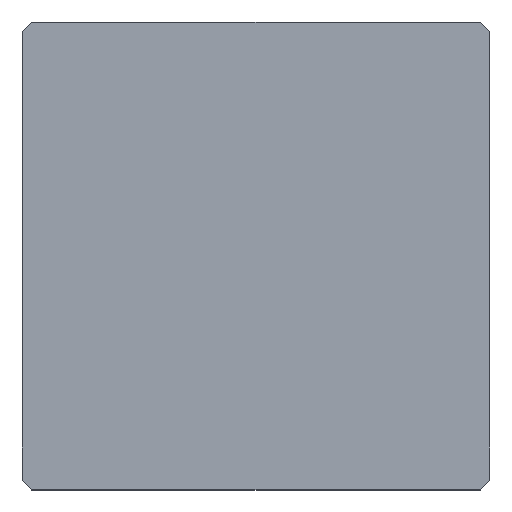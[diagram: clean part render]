
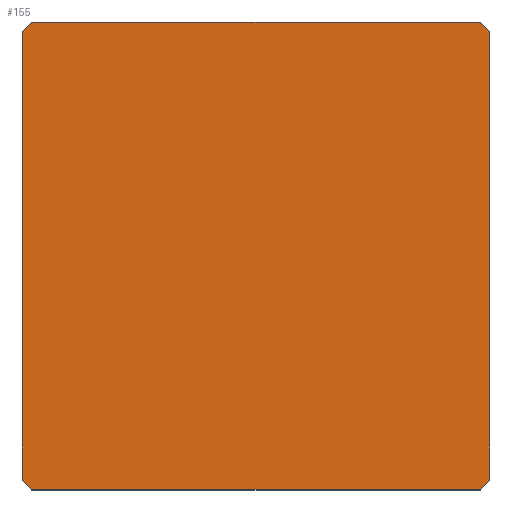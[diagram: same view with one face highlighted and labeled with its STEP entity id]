
A CAD part, top view. The second image highlights one B-rep face of the part: STEP entity #155.
In plain terms, the highlighted planar face has unit normal (0, 0, 1).
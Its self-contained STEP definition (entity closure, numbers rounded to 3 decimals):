
#39 = EDGE_CURVE('',#40,#42,#44,.T.);
#40 = VERTEX_POINT('',#41);
#41 = CARTESIAN_POINT('',(-10.,-9.6,14.75));
#42 = VERTEX_POINT('',#43);
#43 = CARTESIAN_POINT('',(-10.,9.6,14.75));
#44 = SURFACE_CURVE('',#45,(#49,#61),.PCURVE_S1.);
#45 = LINE('',#46,#47);
#46 = CARTESIAN_POINT('',(-10.,-10.,14.75));
#47 = VECTOR('',#48,1.);
#48 = DIRECTION('',(-0.,1.,0.));
#49 = PCURVE('',#50,#55);
#50 = PLANE('',#51);
#51 = AXIS2_PLACEMENT_3D('',#52,#53,#54);
#52 = CARTESIAN_POINT('',(-10.,-10.,0.));
#53 = DIRECTION('',(1.,0.,-0.));
#54 = DIRECTION('',(0.,0.,1.));
#55 = DEFINITIONAL_REPRESENTATION('',(#56),#60);
#56 = LINE('',#57,#58);
#57 = CARTESIAN_POINT('',(14.75,0.));
#58 = VECTOR('',#59,1.);
#59 = DIRECTION('',(0.,-1.));
#60 = ( GEOMETRIC_REPRESENTATION_CONTEXT(2) 
PARAMETRIC_REPRESENTATION_CONTEXT() REPRESENTATION_CONTEXT('2D SPACE',''
  ) );
#61 = PCURVE('',#62,#67);
#62 = PLANE('',#63);
#63 = AXIS2_PLACEMENT_3D('',#64,#65,#66);
#64 = CARTESIAN_POINT('',(-10.,-10.,14.75));
#65 = DIRECTION('',(0.,0.,1.));
#66 = DIRECTION('',(1.,0.,-0.));
#67 = DEFINITIONAL_REPRESENTATION('',(#68),#72);
#68 = LINE('',#69,#70);
#69 = CARTESIAN_POINT('',(0.,0.));
#70 = VECTOR('',#71,1.);
#71 = DIRECTION('',(0.,1.));
#72 = ( GEOMETRIC_REPRESENTATION_CONTEXT(2) 
PARAMETRIC_REPRESENTATION_CONTEXT() REPRESENTATION_CONTEXT('2D SPACE',''
  ) );
#90 = PLANE('',#91);
#91 = AXIS2_PLACEMENT_3D('',#92,#93,#94);
#92 = CARTESIAN_POINT('',(-9.8,-9.8,0.));
#93 = DIRECTION('',(-0.707,-0.707,0.));
#94 = DIRECTION('',(-0.,-0.,-1.));
#144 = PLANE('',#145);
#145 = AXIS2_PLACEMENT_3D('',#146,#147,#148);
#146 = CARTESIAN_POINT('',(-9.8,9.8,0.));
#147 = DIRECTION('',(0.707,-0.707,0.));
#148 = DIRECTION('',(-0.,-0.,-1.));
#155 = ADVANCED_FACE('',(#156),#62,.T.);
#156 = FACE_BOUND('',#157,.T.);
#157 = EDGE_LOOP('',(#158,#159,#182,#210,#238,#266,#294,#322));
#158 = ORIENTED_EDGE('',*,*,#39,.F.);
#159 = ORIENTED_EDGE('',*,*,#160,.T.);
#160 = EDGE_CURVE('',#40,#161,#163,.T.);
#161 = VERTEX_POINT('',#162);
#162 = CARTESIAN_POINT('',(-9.6,-10.,14.75));
#163 = SURFACE_CURVE('',#164,(#168,#175),.PCURVE_S1.);
#164 = LINE('',#165,#166);
#165 = CARTESIAN_POINT('',(-9.8,-9.8,14.75));
#166 = VECTOR('',#167,1.);
#167 = DIRECTION('',(0.707,-0.707,0.));
#168 = PCURVE('',#62,#169);
#169 = DEFINITIONAL_REPRESENTATION('',(#170),#174);
#170 = LINE('',#171,#172);
#171 = CARTESIAN_POINT('',(0.2,0.2));
#172 = VECTOR('',#173,1.);
#173 = DIRECTION('',(0.707,-0.707));
#174 = ( GEOMETRIC_REPRESENTATION_CONTEXT(2) 
PARAMETRIC_REPRESENTATION_CONTEXT() REPRESENTATION_CONTEXT('2D SPACE',''
  ) );
#175 = PCURVE('',#90,#176);
#176 = DEFINITIONAL_REPRESENTATION('',(#177),#181);
#177 = LINE('',#178,#179);
#178 = CARTESIAN_POINT('',(-14.75,0.));
#179 = VECTOR('',#180,1.);
#180 = DIRECTION('',(-0.,1.));
#181 = ( GEOMETRIC_REPRESENTATION_CONTEXT(2) 
PARAMETRIC_REPRESENTATION_CONTEXT() REPRESENTATION_CONTEXT('2D SPACE',''
  ) );
#182 = ORIENTED_EDGE('',*,*,#183,.T.);
#183 = EDGE_CURVE('',#161,#184,#186,.T.);
#184 = VERTEX_POINT('',#185);
#185 = CARTESIAN_POINT('',(9.6,-10.,14.75));
#186 = SURFACE_CURVE('',#187,(#191,#198),.PCURVE_S1.);
#187 = LINE('',#188,#189);
#188 = CARTESIAN_POINT('',(-10.,-10.,14.75));
#189 = VECTOR('',#190,1.);
#190 = DIRECTION('',(1.,0.,-0.));
#191 = PCURVE('',#62,#192);
#192 = DEFINITIONAL_REPRESENTATION('',(#193),#197);
#193 = LINE('',#194,#195);
#194 = CARTESIAN_POINT('',(0.,0.));
#195 = VECTOR('',#196,1.);
#196 = DIRECTION('',(1.,0.));
#197 = ( GEOMETRIC_REPRESENTATION_CONTEXT(2) 
PARAMETRIC_REPRESENTATION_CONTEXT() REPRESENTATION_CONTEXT('2D SPACE',''
  ) );
#198 = PCURVE('',#199,#204);
#199 = PLANE('',#200);
#200 = AXIS2_PLACEMENT_3D('',#201,#202,#203);
#201 = CARTESIAN_POINT('',(-10.,-10.,0.));
#202 = DIRECTION('',(-0.,1.,0.));
#203 = DIRECTION('',(0.,0.,1.));
#204 = DEFINITIONAL_REPRESENTATION('',(#205),#209);
#205 = LINE('',#206,#207);
#206 = CARTESIAN_POINT('',(14.75,0.));
#207 = VECTOR('',#208,1.);
#208 = DIRECTION('',(0.,1.));
#209 = ( GEOMETRIC_REPRESENTATION_CONTEXT(2) 
PARAMETRIC_REPRESENTATION_CONTEXT() REPRESENTATION_CONTEXT('2D SPACE',''
  ) );
#210 = ORIENTED_EDGE('',*,*,#211,.F.);
#211 = EDGE_CURVE('',#212,#184,#214,.T.);
#212 = VERTEX_POINT('',#213);
#213 = CARTESIAN_POINT('',(10.,-9.6,14.75));
#214 = SURFACE_CURVE('',#215,(#219,#226),.PCURVE_S1.);
#215 = LINE('',#216,#217);
#216 = CARTESIAN_POINT('',(4.8,-14.8,14.75));
#217 = VECTOR('',#218,1.);
#218 = DIRECTION('',(-0.707,-0.707,0.));
#219 = PCURVE('',#62,#220);
#220 = DEFINITIONAL_REPRESENTATION('',(#221),#225);
#221 = LINE('',#222,#223);
#222 = CARTESIAN_POINT('',(14.8,-4.8));
#223 = VECTOR('',#224,1.);
#224 = DIRECTION('',(-0.707,-0.707));
#225 = ( GEOMETRIC_REPRESENTATION_CONTEXT(2) 
PARAMETRIC_REPRESENTATION_CONTEXT() REPRESENTATION_CONTEXT('2D SPACE',''
  ) );
#226 = PCURVE('',#227,#232);
#227 = PLANE('',#228);
#228 = AXIS2_PLACEMENT_3D('',#229,#230,#231);
#229 = CARTESIAN_POINT('',(9.8,-9.8,0.));
#230 = DIRECTION('',(-0.707,0.707,0.));
#231 = DIRECTION('',(-0.,-0.,-1.));
#232 = DEFINITIONAL_REPRESENTATION('',(#233),#237);
#233 = LINE('',#234,#235);
#234 = CARTESIAN_POINT('',(-14.75,7.071));
#235 = VECTOR('',#236,1.);
#236 = DIRECTION('',(-0.,1.));
#237 = ( GEOMETRIC_REPRESENTATION_CONTEXT(2) 
PARAMETRIC_REPRESENTATION_CONTEXT() REPRESENTATION_CONTEXT('2D SPACE',''
  ) );
#238 = ORIENTED_EDGE('',*,*,#239,.T.);
#239 = EDGE_CURVE('',#212,#240,#242,.T.);
#240 = VERTEX_POINT('',#241);
#241 = CARTESIAN_POINT('',(10.,9.6,14.75));
#242 = SURFACE_CURVE('',#243,(#247,#254),.PCURVE_S1.);
#243 = LINE('',#244,#245);
#244 = CARTESIAN_POINT('',(10.,-10.,14.75));
#245 = VECTOR('',#246,1.);
#246 = DIRECTION('',(-0.,1.,0.));
#247 = PCURVE('',#62,#248);
#248 = DEFINITIONAL_REPRESENTATION('',(#249),#253);
#249 = LINE('',#250,#251);
#250 = CARTESIAN_POINT('',(20.,0.));
#251 = VECTOR('',#252,1.);
#252 = DIRECTION('',(0.,1.));
#253 = ( GEOMETRIC_REPRESENTATION_CONTEXT(2) 
PARAMETRIC_REPRESENTATION_CONTEXT() REPRESENTATION_CONTEXT('2D SPACE',''
  ) );
#254 = PCURVE('',#255,#260);
#255 = PLANE('',#256);
#256 = AXIS2_PLACEMENT_3D('',#257,#258,#259);
#257 = CARTESIAN_POINT('',(10.,-10.,0.));
#258 = DIRECTION('',(1.,0.,-0.));
#259 = DIRECTION('',(0.,0.,1.));
#260 = DEFINITIONAL_REPRESENTATION('',(#261),#265);
#261 = LINE('',#262,#263);
#262 = CARTESIAN_POINT('',(14.75,0.));
#263 = VECTOR('',#264,1.);
#264 = DIRECTION('',(0.,-1.));
#265 = ( GEOMETRIC_REPRESENTATION_CONTEXT(2) 
PARAMETRIC_REPRESENTATION_CONTEXT() REPRESENTATION_CONTEXT('2D SPACE',''
  ) );
#266 = ORIENTED_EDGE('',*,*,#267,.T.);
#267 = EDGE_CURVE('',#240,#268,#270,.T.);
#268 = VERTEX_POINT('',#269);
#269 = CARTESIAN_POINT('',(9.6,10.,14.75));
#270 = SURFACE_CURVE('',#271,(#275,#282),.PCURVE_S1.);
#271 = LINE('',#272,#273);
#272 = CARTESIAN_POINT('',(9.8,9.8,14.75));
#273 = VECTOR('',#274,1.);
#274 = DIRECTION('',(-0.707,0.707,0.));
#275 = PCURVE('',#62,#276);
#276 = DEFINITIONAL_REPRESENTATION('',(#277),#281);
#277 = LINE('',#278,#279);
#278 = CARTESIAN_POINT('',(19.8,19.8));
#279 = VECTOR('',#280,1.);
#280 = DIRECTION('',(-0.707,0.707));
#281 = ( GEOMETRIC_REPRESENTATION_CONTEXT(2) 
PARAMETRIC_REPRESENTATION_CONTEXT() REPRESENTATION_CONTEXT('2D SPACE',''
  ) );
#282 = PCURVE('',#283,#288);
#283 = PLANE('',#284);
#284 = AXIS2_PLACEMENT_3D('',#285,#286,#287);
#285 = CARTESIAN_POINT('',(9.8,9.8,0.));
#286 = DIRECTION('',(0.707,0.707,0.));
#287 = DIRECTION('',(-0.,0.,-1.));
#288 = DEFINITIONAL_REPRESENTATION('',(#289),#293);
#289 = LINE('',#290,#291);
#290 = CARTESIAN_POINT('',(-14.75,0.));
#291 = VECTOR('',#292,1.);
#292 = DIRECTION('',(-0.,1.));
#293 = ( GEOMETRIC_REPRESENTATION_CONTEXT(2) 
PARAMETRIC_REPRESENTATION_CONTEXT() REPRESENTATION_CONTEXT('2D SPACE',''
  ) );
#294 = ORIENTED_EDGE('',*,*,#295,.F.);
#295 = EDGE_CURVE('',#296,#268,#298,.T.);
#296 = VERTEX_POINT('',#297);
#297 = CARTESIAN_POINT('',(-9.6,10.,14.75));
#298 = SURFACE_CURVE('',#299,(#303,#310),.PCURVE_S1.);
#299 = LINE('',#300,#301);
#300 = CARTESIAN_POINT('',(-10.,10.,14.75));
#301 = VECTOR('',#302,1.);
#302 = DIRECTION('',(1.,0.,-0.));
#303 = PCURVE('',#62,#304);
#304 = DEFINITIONAL_REPRESENTATION('',(#305),#309);
#305 = LINE('',#306,#307);
#306 = CARTESIAN_POINT('',(0.,20.));
#307 = VECTOR('',#308,1.);
#308 = DIRECTION('',(1.,0.));
#309 = ( GEOMETRIC_REPRESENTATION_CONTEXT(2) 
PARAMETRIC_REPRESENTATION_CONTEXT() REPRESENTATION_CONTEXT('2D SPACE',''
  ) );
#310 = PCURVE('',#311,#316);
#311 = PLANE('',#312);
#312 = AXIS2_PLACEMENT_3D('',#313,#314,#315);
#313 = CARTESIAN_POINT('',(-10.,10.,0.));
#314 = DIRECTION('',(-0.,1.,0.));
#315 = DIRECTION('',(0.,0.,1.));
#316 = DEFINITIONAL_REPRESENTATION('',(#317),#321);
#317 = LINE('',#318,#319);
#318 = CARTESIAN_POINT('',(14.75,0.));
#319 = VECTOR('',#320,1.);
#320 = DIRECTION('',(0.,1.));
#321 = ( GEOMETRIC_REPRESENTATION_CONTEXT(2) 
PARAMETRIC_REPRESENTATION_CONTEXT() REPRESENTATION_CONTEXT('2D SPACE',''
  ) );
#322 = ORIENTED_EDGE('',*,*,#323,.F.);
#323 = EDGE_CURVE('',#42,#296,#324,.T.);
#324 = SURFACE_CURVE('',#325,(#329,#336),.PCURVE_S1.);
#325 = LINE('',#326,#327);
#326 = CARTESIAN_POINT('',(-14.8,4.8,14.75));
#327 = VECTOR('',#328,1.);
#328 = DIRECTION('',(0.707,0.707,-0.));
#329 = PCURVE('',#62,#330);
#330 = DEFINITIONAL_REPRESENTATION('',(#331),#335);
#331 = LINE('',#332,#333);
#332 = CARTESIAN_POINT('',(-4.8,14.8));
#333 = VECTOR('',#334,1.);
#334 = DIRECTION('',(0.707,0.707));
#335 = ( GEOMETRIC_REPRESENTATION_CONTEXT(2) 
PARAMETRIC_REPRESENTATION_CONTEXT() REPRESENTATION_CONTEXT('2D SPACE',''
  ) );
#336 = PCURVE('',#144,#337);
#337 = DEFINITIONAL_REPRESENTATION('',(#338),#342);
#338 = LINE('',#339,#340);
#339 = CARTESIAN_POINT('',(-14.75,-7.071));
#340 = VECTOR('',#341,1.);
#341 = DIRECTION('',(-0.,1.));
#342 = ( GEOMETRIC_REPRESENTATION_CONTEXT(2) 
PARAMETRIC_REPRESENTATION_CONTEXT() REPRESENTATION_CONTEXT('2D SPACE',''
  ) );
